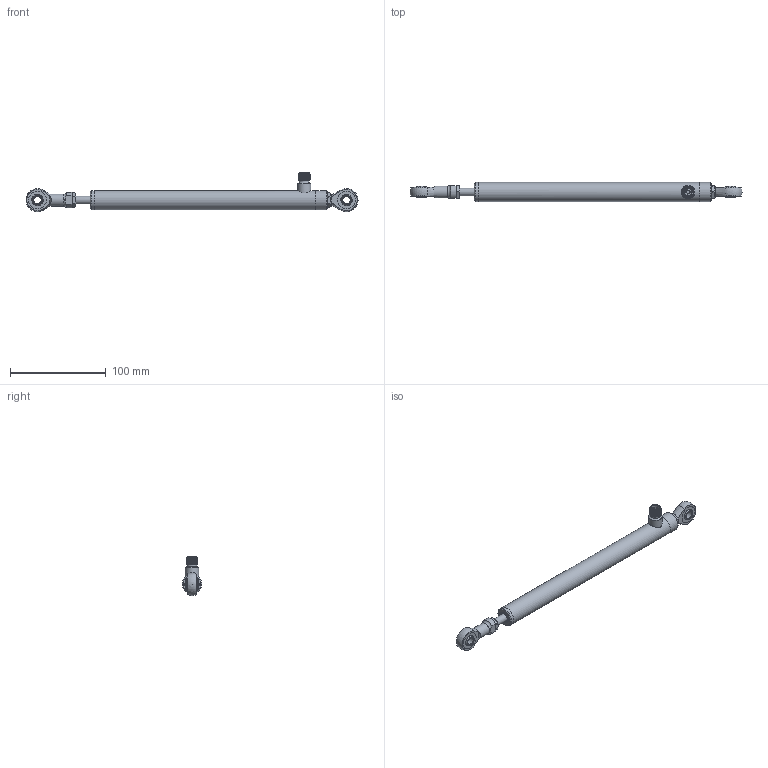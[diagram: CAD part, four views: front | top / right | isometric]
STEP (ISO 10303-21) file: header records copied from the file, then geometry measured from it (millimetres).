
FILE_DESCRIPTION( ( 'STEP AP214' ), '1' );
FILE_NAME( 'N:/Engineering/CAD_Solid/LVDT/SL/Kunden-3D-Modell/SL80-G-SR.stp', '2011-12-12T14:56:08', ( ' ' ), ( ' ' ), 'XStep 1.0', ' ', ' ' );
FILE_SCHEMA( ( 'CONFIG_CONTROL_DESIGN) ( )' ) );
Length unit declared in the file: metre
Products named in the file (9): 1; 2; 3; 4; 5; 6; 7; 8; 9
Bounding box: 346 x 20 x 40.99 mm (x, y, z)
Volume: 1908.6 mm3; surface area: 26307.3 mm2
Topology: 2 solids, 98 shells, 110 faces, 472 edges, 424 vertices
Faces by surface type: plane 44, cylinder 30, cone 25, sphere 6, bspline 4, torus 1
Full cylindrical faces by diameter (mm): 2 x4, 8 x3, 10.5 x1, 12 x1, 12.5 x1, 14 x1, 20 x3
Entity records: 9896 total; most frequent: CARTESIAN_POINT 5656, DIRECTION 709, ORIENTED_EDGE 401, EDGE_CURVE 389, VERTEX_POINT 389, AXIS2_PLACEMENT_3D 302, CIRCLE 185, EDGE_LOOP 169
